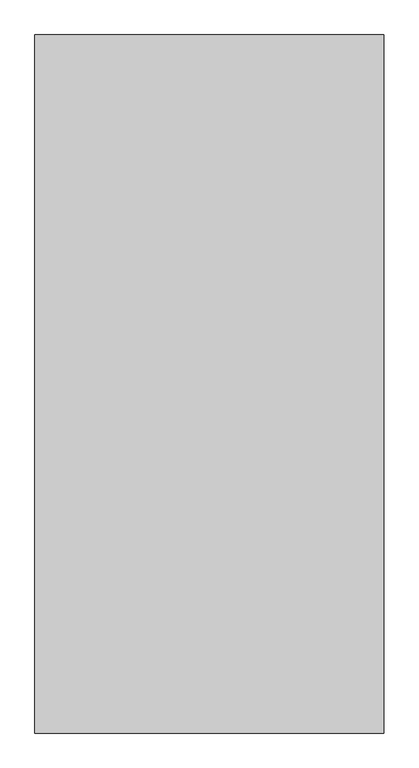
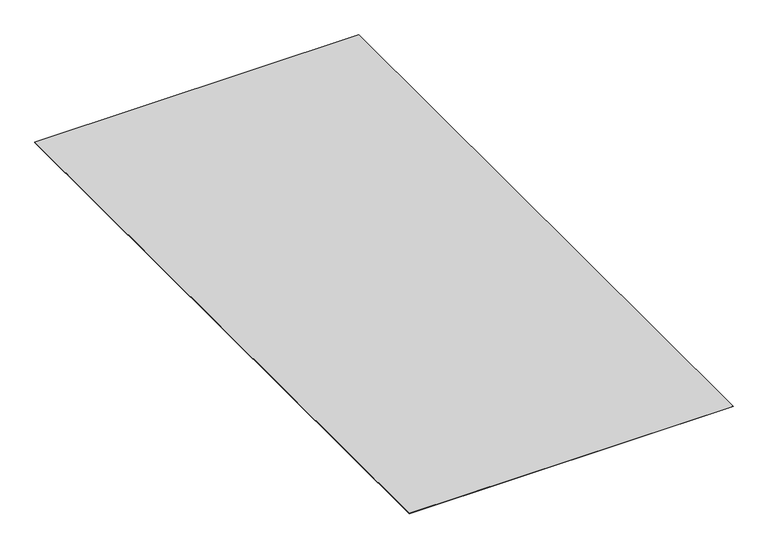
"""IFC4 building model written with IfcOpenShell, lengths in millimetres: proxy geometry, AQUAPANEL Tape (10 cm) : AQUAPANEL Tape (10 cm)."""

from ifc_helpers import new_model, si_unit, origin, origin_with_axes, place, context, project, spatial, polyline, outline, extrude, source, transform, mapped, element, save


def generic_models_e22a5b89(model_context):
    return source(origin(), model_context, "Body", "SweptSolid", [
        extrude(outline(polyline([(18011.4421741, 18350.9190852), (18011.4421741, 16350.9190852), (17011.4421741, 16350.9190852), (17011.4421741, 18350.9190852), (18011.4421741, 18350.9190852)])), origin_with_axes(), (0.0, 0.0, 1.0), 1.0),
    ])


if __name__ == "__main__":
    model = new_model("IFC4")
    model_context = context("Model", 3, world=origin())
    ifc_project = project(units=[si_unit("LENGTHUNIT", "METRE", prefix="MILLI")], contexts=[model_context])
    site = spatial("IfcSite", under=ifc_project)
    building = spatial("IfcBuilding", under=site)
    placement = place(None, origin())
    generic_models_shape = generic_models_e22a5b89(model_context)
    element("IfcBuildingElementProxy", 1, Name="AQUAPANEL Tape (10 cm) : AQUAPANEL Tape (10 cm)", ObjectType="AQUAPANEL Tape (10 cm) : AQUAPANEL Tape (10 cm)", at=placement, inside=building, context=model_context, shape_type="MappedRepresentation", body=[
        mapped(generic_models_shape, transform((0.0, 0.0, 0.0), x_axis=(1.0, 0.0, 0.0), y_axis=(0.0, 1.0, 0.0), z_axis=(0.0, 0.0, 1.0))),
    ])
    save(model, "model.ifc")
